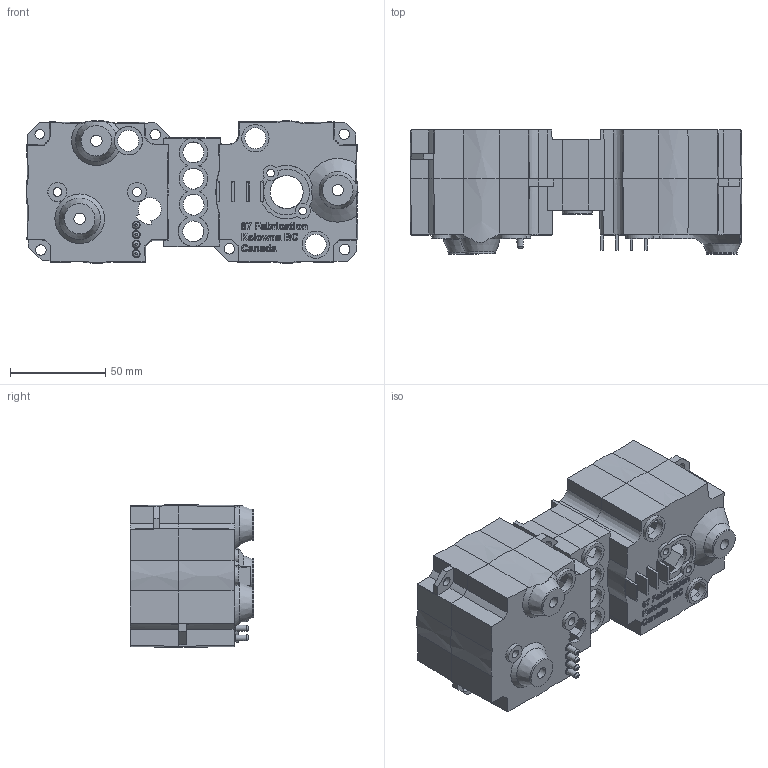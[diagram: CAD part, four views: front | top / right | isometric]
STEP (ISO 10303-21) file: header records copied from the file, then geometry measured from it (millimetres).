
FILE_DESCRIPTION(/* description */ (''),/* implementation_level */ '2;1');
FILE_NAME(/* name */ '3411144B10-printable.step',/* time_stamp */ '2026-06-04T16:08:46-07:00',/* author */ (''),/* organization */ (''),/* preprocessor_version */ 'ST-DEVELOPER v20.1',/* originating_system */ 'Autodesk Translation Framework v15.8.0.0',/* authorisation */ '');
FILE_SCHEMA (('AUTOMOTIVE_DESIGN { 1 0 10303 214 3 1 1 }'));
Length unit declared in the file: millimetre
Products named in the file (1): 3411144B10-printable
Bounding box: 174.08 x 65 x 74.73 mm (x, y, z)
Volume: 133951.7 mm3; surface area: 99066.1 mm2
Topology: 1 solids, 1 shells, 1134 faces, 3275 edges, 2202 vertices
Faces by surface type: plane 576, bspline 412, cone 82, cylinder 60, torus 4
Full cylindrical faces by diameter (mm): 4 x2, 5 x1, 5.5 x4, 5.548 x1, 6 x3, 10 x3, 11 x7, 14.268 x1, 14.31 x1, 16 x3, 17.4 x1
Entity records: 41162 total; most frequent: CARTESIAN_POINT 14283, ORIENTED_EDGE 6550, DIRECTION 4066, EDGE_CURVE 3275, VERTEX_POINT 2202, LINE 1824, VECTOR 1824, EDGE_LOOP 1237
